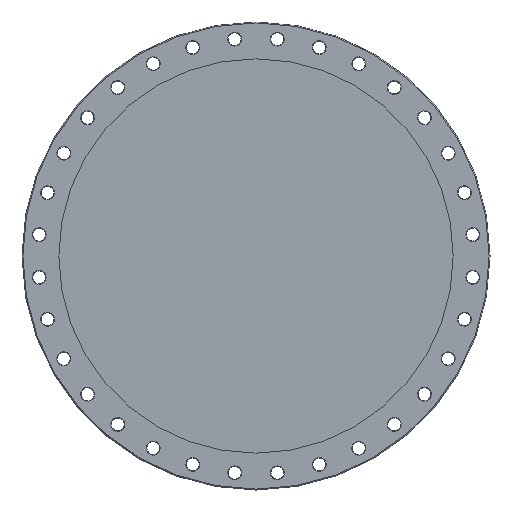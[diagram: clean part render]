
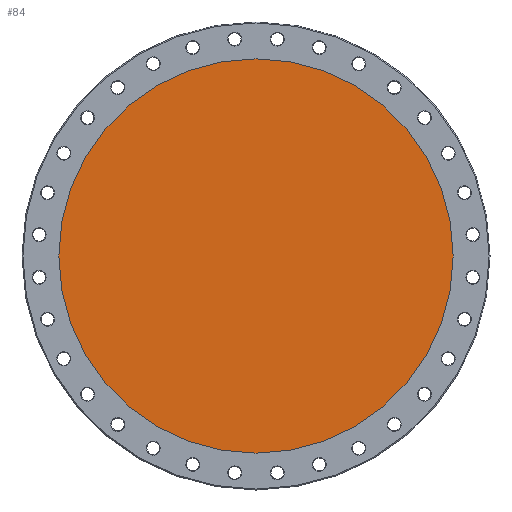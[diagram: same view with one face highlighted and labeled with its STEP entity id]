
A CAD part, left-side view. The second image highlights one B-rep face of the part: STEP entity #84.
In plain terms, the highlighted planar face has unit normal (-1, 0, 0).
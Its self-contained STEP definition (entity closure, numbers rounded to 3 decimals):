
#68=CARTESIAN_POINT('',(-18.,68.175,0.0));
#69=DIRECTION('',(-1.0,0.0,0.0));
#70=DIRECTION('',(0.0,0.0,1.0));
#71=AXIS2_PLACEMENT_3D('',#68,#69,#70);
#72=PLANE('',#71);
#73=CARTESIAN_POINT('',(-18.,128.5,0.0));
#74=VERTEX_POINT('',#73);
#75=CARTESIAN_POINT('',(-18.,0.,0.0));
#76=DIRECTION('',(1.0,0.0,0.0));
#77=DIRECTION('',(0.0,1.0,0.0));
#78=AXIS2_PLACEMENT_3D('',#75,#76,#77);
#79=CIRCLE('',#78,128.5);
#80=EDGE_CURVE('',#74,#74,#79,.T.);
#81=ORIENTED_EDGE('',*,*,#80,.F.);
#82=EDGE_LOOP('',(#81));
#83=FACE_OUTER_BOUND('',#82,.T.);
#84=ADVANCED_FACE('',(#83),#72,.T.);
